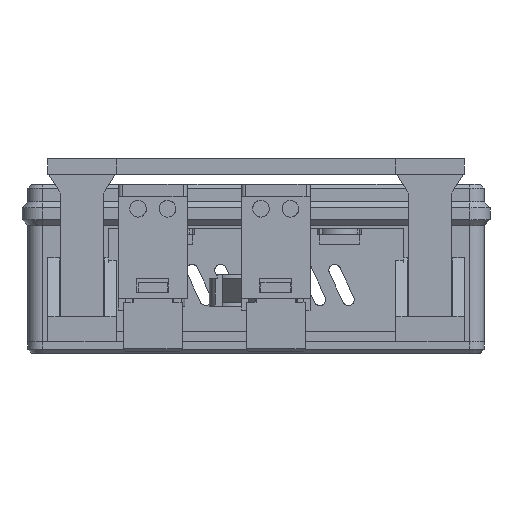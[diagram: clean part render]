
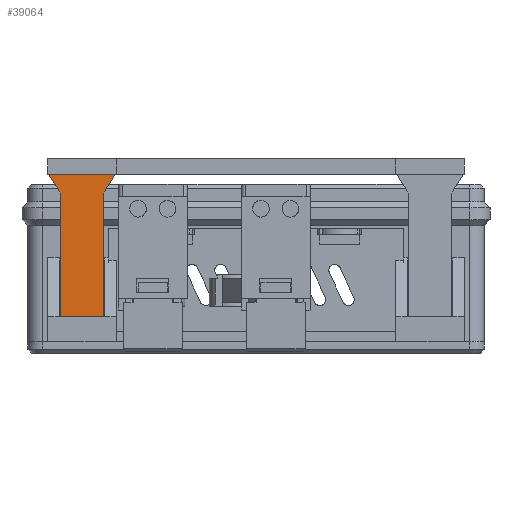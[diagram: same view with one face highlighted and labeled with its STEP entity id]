
A CAD part, left-side view. The second image highlights one B-rep face of the part: STEP entity #39064.
In plain terms, the highlighted planar face has unit normal (-1, 0, 0).
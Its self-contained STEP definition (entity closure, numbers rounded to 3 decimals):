
#36924 = PLANE('',#36925);
#36925 = AXIS2_PLACEMENT_3D('',#36926,#36927,#36928);
#36926 = CARTESIAN_POINT('',(-57.25,42.4,40.));
#36927 = DIRECTION('',(0.,0.,-1.));
#36928 = DIRECTION('',(1.,0.,0.));
#37370 = EDGE_CURVE('',#37371,#37373,#37375,.T.);
#37371 = VERTEX_POINT('',#37372);
#37372 = CARTESIAN_POINT('',(-47.25,42.169,40.));
#37373 = VERTEX_POINT('',#37374);
#37374 = CARTESIAN_POINT('',(-47.25,28.631,40.));
#37375 = SURFACE_CURVE('',#37376,(#37380,#37387),.PCURVE_S1.);
#37376 = LINE('',#37377,#37378);
#37377 = CARTESIAN_POINT('',(-47.25,42.169,40.));
#37378 = VECTOR('',#37379,1.);
#37379 = DIRECTION('',(0.,-1.,0.));
#37380 = PCURVE('',#36924,#37381);
#37381 = DEFINITIONAL_REPRESENTATION('',(#37382),#37386);
#37382 = LINE('',#37383,#37384);
#37383 = CARTESIAN_POINT('',(10.,0.231));
#37384 = VECTOR('',#37385,1.);
#37385 = DIRECTION('',(0.,1.));
#37386 = ( GEOMETRIC_REPRESENTATION_CONTEXT(2) 
PARAMETRIC_REPRESENTATION_CONTEXT() REPRESENTATION_CONTEXT('2D SPACE',''
  ) );
#37387 = PCURVE('',#37388,#37393);
#37388 = PLANE('',#37389);
#37389 = AXIS2_PLACEMENT_3D('',#37390,#37391,#37392);
#37390 = CARTESIAN_POINT('',(-47.25,42.169,11.));
#37391 = DIRECTION('',(-1.,0.,0.));
#37392 = DIRECTION('',(0.,-1.,0.));
#37393 = DEFINITIONAL_REPRESENTATION('',(#37394),#37398);
#37394 = LINE('',#37395,#37396);
#37395 = CARTESIAN_POINT('',(0.,29.));
#37396 = VECTOR('',#37397,1.);
#37397 = DIRECTION('',(1.,0.));
#37398 = ( GEOMETRIC_REPRESENTATION_CONTEXT(2) 
PARAMETRIC_REPRESENTATION_CONTEXT() REPRESENTATION_CONTEXT('2D SPACE',''
  ) );
#37416 = PLANE('',#37417);
#37417 = AXIS2_PLACEMENT_3D('',#37418,#37419,#37420);
#37418 = CARTESIAN_POINT('',(-47.25,31.1,36.));
#37419 = DIRECTION('',(0.,-0.851,-0.525));
#37420 = DIRECTION('',(1.,0.,0.));
#37470 = PLANE('',#37471);
#37471 = AXIS2_PLACEMENT_3D('',#37472,#37473,#37474);
#37472 = CARTESIAN_POINT('',(-37.05,39.7,36.));
#37473 = DIRECTION('',(0.,0.851,-0.525));
#37474 = DIRECTION('',(-1.,0.,0.));
#38850 = VERTEX_POINT('',#38851);
#38851 = CARTESIAN_POINT('',(-47.25,39.7,11.));
#38860 = PLANE('',#38861);
#38861 = AXIS2_PLACEMENT_3D('',#38862,#38863,#38864);
#38862 = CARTESIAN_POINT('',(-47.25,39.7,11.));
#38863 = DIRECTION('',(0.,0.,-1.));
#38864 = DIRECTION('',(1.,0.,0.));
#38872 = PLANE('',#38873);
#38873 = AXIS2_PLACEMENT_3D('',#38874,#38875,#38876);
#38874 = CARTESIAN_POINT('',(-37.05,39.7,11.));
#38875 = DIRECTION('',(0.,1.,-0.));
#38876 = DIRECTION('',(-1.,0.,0.));
#38908 = VERTEX_POINT('',#38909);
#38909 = CARTESIAN_POINT('',(-47.25,31.1,11.));
#38923 = PLANE('',#38924);
#38924 = AXIS2_PLACEMENT_3D('',#38925,#38926,#38927);
#38925 = CARTESIAN_POINT('',(-47.25,31.1,11.));
#38926 = DIRECTION('',(0.,-1.,0.));
#38927 = DIRECTION('',(1.,0.,0.));
#38935 = EDGE_CURVE('',#38908,#38850,#38936,.T.);
#38936 = SURFACE_CURVE('',#38937,(#38941,#38948),.PCURVE_S1.);
#38937 = LINE('',#38938,#38939);
#38938 = CARTESIAN_POINT('',(-47.25,31.1,11.));
#38939 = VECTOR('',#38940,1.);
#38940 = DIRECTION('',(0.,1.,0.));
#38941 = PCURVE('',#38860,#38942);
#38942 = DEFINITIONAL_REPRESENTATION('',(#38943),#38947);
#38943 = LINE('',#38944,#38945);
#38944 = CARTESIAN_POINT('',(0.,8.6));
#38945 = VECTOR('',#38946,1.);
#38946 = DIRECTION('',(0.,-1.));
#38947 = ( GEOMETRIC_REPRESENTATION_CONTEXT(2) 
PARAMETRIC_REPRESENTATION_CONTEXT() REPRESENTATION_CONTEXT('2D SPACE',''
  ) );
#38948 = PCURVE('',#37388,#38949);
#38949 = DEFINITIONAL_REPRESENTATION('',(#38950),#38954);
#38950 = LINE('',#38951,#38952);
#38951 = CARTESIAN_POINT('',(11.069,0.));
#38952 = VECTOR('',#38953,1.);
#38953 = DIRECTION('',(-1.,0.));
#38954 = ( GEOMETRIC_REPRESENTATION_CONTEXT(2) 
PARAMETRIC_REPRESENTATION_CONTEXT() REPRESENTATION_CONTEXT('2D SPACE',''
  ) );
#39064 = ADVANCED_FACE('',(#39065),#37388,.T.);
#39065 = FACE_BOUND('',#39066,.T.);
#39066 = EDGE_LOOP('',(#39067,#39090,#39111,#39112,#39135,#39156));
#39067 = ORIENTED_EDGE('',*,*,#39068,.T.);
#39068 = EDGE_CURVE('',#37371,#39069,#39071,.T.);
#39069 = VERTEX_POINT('',#39070);
#39070 = CARTESIAN_POINT('',(-47.25,39.7,36.));
#39071 = SURFACE_CURVE('',#39072,(#39076,#39083),.PCURVE_S1.);
#39072 = LINE('',#39073,#39074);
#39073 = CARTESIAN_POINT('',(-47.25,42.169,40.));
#39074 = VECTOR('',#39075,1.);
#39075 = DIRECTION('',(0.,-0.525,-0.851));
#39076 = PCURVE('',#37388,#39077);
#39077 = DEFINITIONAL_REPRESENTATION('',(#39078),#39082);
#39078 = LINE('',#39079,#39080);
#39079 = CARTESIAN_POINT('',(0.,29.));
#39080 = VECTOR('',#39081,1.);
#39081 = DIRECTION('',(0.525,-0.851));
#39082 = ( GEOMETRIC_REPRESENTATION_CONTEXT(2) 
PARAMETRIC_REPRESENTATION_CONTEXT() REPRESENTATION_CONTEXT('2D SPACE',''
  ) );
#39083 = PCURVE('',#37470,#39084);
#39084 = DEFINITIONAL_REPRESENTATION('',(#39085),#39089);
#39085 = LINE('',#39086,#39087);
#39086 = CARTESIAN_POINT('',(10.2,4.701));
#39087 = VECTOR('',#39088,1.);
#39088 = DIRECTION('',(-0.,-1.));
#39089 = ( GEOMETRIC_REPRESENTATION_CONTEXT(2) 
PARAMETRIC_REPRESENTATION_CONTEXT() REPRESENTATION_CONTEXT('2D SPACE',''
  ) );
#39090 = ORIENTED_EDGE('',*,*,#39091,.F.);
#39091 = EDGE_CURVE('',#38850,#39069,#39092,.T.);
#39092 = SURFACE_CURVE('',#39093,(#39097,#39104),.PCURVE_S1.);
#39093 = LINE('',#39094,#39095);
#39094 = CARTESIAN_POINT('',(-47.25,39.7,11.));
#39095 = VECTOR('',#39096,1.);
#39096 = DIRECTION('',(0.,0.,1.));
#39097 = PCURVE('',#37388,#39098);
#39098 = DEFINITIONAL_REPRESENTATION('',(#39099),#39103);
#39099 = LINE('',#39100,#39101);
#39100 = CARTESIAN_POINT('',(2.469,0.));
#39101 = VECTOR('',#39102,1.);
#39102 = DIRECTION('',(0.,1.));
#39103 = ( GEOMETRIC_REPRESENTATION_CONTEXT(2) 
PARAMETRIC_REPRESENTATION_CONTEXT() REPRESENTATION_CONTEXT('2D SPACE',''
  ) );
#39104 = PCURVE('',#38872,#39105);
#39105 = DEFINITIONAL_REPRESENTATION('',(#39106),#39110);
#39106 = LINE('',#39107,#39108);
#39107 = CARTESIAN_POINT('',(10.2,0.));
#39108 = VECTOR('',#39109,1.);
#39109 = DIRECTION('',(0.,1.));
#39110 = ( GEOMETRIC_REPRESENTATION_CONTEXT(2) 
PARAMETRIC_REPRESENTATION_CONTEXT() REPRESENTATION_CONTEXT('2D SPACE',''
  ) );
#39111 = ORIENTED_EDGE('',*,*,#38935,.F.);
#39112 = ORIENTED_EDGE('',*,*,#39113,.T.);
#39113 = EDGE_CURVE('',#38908,#39114,#39116,.T.);
#39114 = VERTEX_POINT('',#39115);
#39115 = CARTESIAN_POINT('',(-47.25,31.1,36.));
#39116 = SURFACE_CURVE('',#39117,(#39121,#39128),.PCURVE_S1.);
#39117 = LINE('',#39118,#39119);
#39118 = CARTESIAN_POINT('',(-47.25,31.1,11.));
#39119 = VECTOR('',#39120,1.);
#39120 = DIRECTION('',(0.,0.,1.));
#39121 = PCURVE('',#37388,#39122);
#39122 = DEFINITIONAL_REPRESENTATION('',(#39123),#39127);
#39123 = LINE('',#39124,#39125);
#39124 = CARTESIAN_POINT('',(11.069,0.));
#39125 = VECTOR('',#39126,1.);
#39126 = DIRECTION('',(0.,1.));
#39127 = ( GEOMETRIC_REPRESENTATION_CONTEXT(2) 
PARAMETRIC_REPRESENTATION_CONTEXT() REPRESENTATION_CONTEXT('2D SPACE',''
  ) );
#39128 = PCURVE('',#38923,#39129);
#39129 = DEFINITIONAL_REPRESENTATION('',(#39130),#39134);
#39130 = LINE('',#39131,#39132);
#39131 = CARTESIAN_POINT('',(0.,0.));
#39132 = VECTOR('',#39133,1.);
#39133 = DIRECTION('',(0.,1.));
#39134 = ( GEOMETRIC_REPRESENTATION_CONTEXT(2) 
PARAMETRIC_REPRESENTATION_CONTEXT() REPRESENTATION_CONTEXT('2D SPACE',''
  ) );
#39135 = ORIENTED_EDGE('',*,*,#39136,.F.);
#39136 = EDGE_CURVE('',#37373,#39114,#39137,.T.);
#39137 = SURFACE_CURVE('',#39138,(#39142,#39149),.PCURVE_S1.);
#39138 = LINE('',#39139,#39140);
#39139 = CARTESIAN_POINT('',(-47.25,28.631,40.));
#39140 = VECTOR('',#39141,1.);
#39141 = DIRECTION('',(0.,0.525,-0.851));
#39142 = PCURVE('',#37388,#39143);
#39143 = DEFINITIONAL_REPRESENTATION('',(#39144),#39148);
#39144 = LINE('',#39145,#39146);
#39145 = CARTESIAN_POINT('',(13.538,29.));
#39146 = VECTOR('',#39147,1.);
#39147 = DIRECTION('',(-0.525,-0.851));
#39148 = ( GEOMETRIC_REPRESENTATION_CONTEXT(2) 
PARAMETRIC_REPRESENTATION_CONTEXT() REPRESENTATION_CONTEXT('2D SPACE',''
  ) );
#39149 = PCURVE('',#37416,#39150);
#39150 = DEFINITIONAL_REPRESENTATION('',(#39151),#39155);
#39151 = LINE('',#39152,#39153);
#39152 = CARTESIAN_POINT('',(0.,4.701));
#39153 = VECTOR('',#39154,1.);
#39154 = DIRECTION('',(0.,-1.));
#39155 = ( GEOMETRIC_REPRESENTATION_CONTEXT(2) 
PARAMETRIC_REPRESENTATION_CONTEXT() REPRESENTATION_CONTEXT('2D SPACE',''
  ) );
#39156 = ORIENTED_EDGE('',*,*,#37370,.F.);
